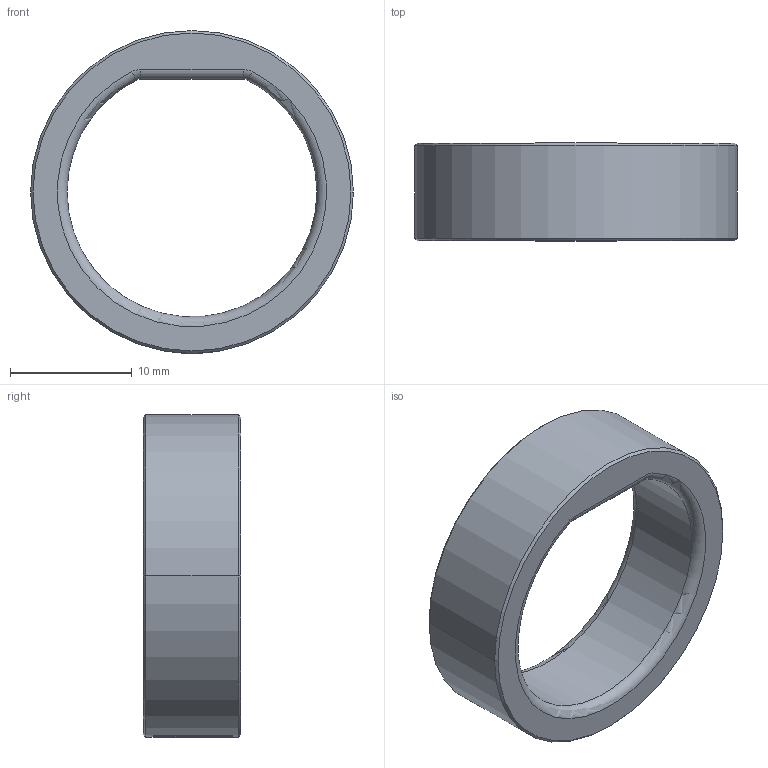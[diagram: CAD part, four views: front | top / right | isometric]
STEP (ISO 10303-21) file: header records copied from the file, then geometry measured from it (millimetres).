
FILE_DESCRIPTION((''),'2;1');
FILE_NAME('11','2026-09-02T10:39:10',('krisl'),(''),'CREO PARAMETRIC BY PTC INC, 2024063','CREO PARAMETRIC BY PTC INC, 2024063','');
FILE_SCHEMA(('CONFIG_CONTROL_DESIGN'));
Length unit declared in the file: millimetre
Products named in the file (1): 11
Bounding box: 26.5 x 8 x 26.5 mm (x, y, z)
Volume: 1795.5 mm3; surface area: 1574.3 mm2
Topology: 1 solids, 1 shells, 50 faces, 124 edges, 78 vertices
Faces by surface type: bspline 28, cylinder 9, torus 6, cone 4, plane 3
Entity records: 2291 total; most frequent: CARTESIAN_POINT 1263, ORIENTED_EDGE 248, DIRECTION 138, EDGE_CURVE 124, VERTEX_POINT 78, B_SPLINE_CURVE_WITH_KNOTS 70, AXIS2_PLACEMENT_3D 62, EDGE_LOOP 54
